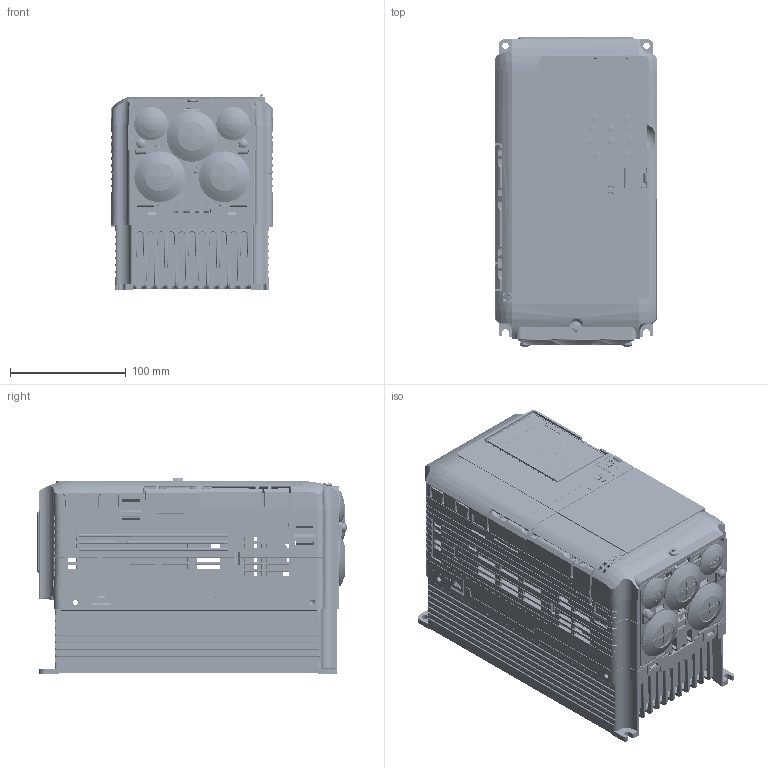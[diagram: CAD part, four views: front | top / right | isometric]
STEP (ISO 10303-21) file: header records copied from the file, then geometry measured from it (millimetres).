
FILE_DESCRIPTION((''),'2;1');
FILE_NAME('71616-AA4A0023FAA_ASM','2010-02-19T',('jc'),('YASKAWA ELECTRIC CORCORATION'),'PRO/ENGINEER BY PARAMETRIC TECHNOLOGY CORPORATION, 2008490','PRO/ENGINEER BY PARAMETRIC TECHNOLOGY CORPORATION, 2008490','');
FILE_SCHEMA(('CONFIG_CONTROL_DESIGN'));
Length unit declared in the file: millimetre
Products named in the file (97): LAY_AA4A0023FAA; HSGT21104_1; HSGT21104_ASM; CVST31320; ISCT21013; YPHT31612-1B_AF0; TBET31172_1_1_AF0; TBET31172_1_2_AF0; TBET31172_1_2_AF1; TBET31172_1_2_AF2; TBET31172_1_2_AF3; TBET31172_1_2_AF4; TBET31172_1_2_AF5; TBET31172_1_2_AF6; TBET31172_1_2_AF7; TBET31172_1_2_AF8; TBET31172_1_3_AF0; TBET31172_1_3_AF1; TBET31172_1_3_AF2; TBET31172_1_3_AF3; TBET31172_1_3_AF4; TBET31172_1_3_AF5; TBET31172_1_3_AF6; TBET31172_1_3_AF7; TBET31172_1_3_AF8; TBET31172_1_AF0_ASM; TBET31172_3_AF0; TBET31172_2_AF0; TBET31172_2_AF1; TBET31172_2_AF2; TBET31172_2_AF3; TBET31172_2_AF4; TBET31172_2_AF5; TBET31172_2_AF6; TBET31172_2_AF7; TBET31172_2_AF8; TBET31172_AF0_ASM; TBET31170_1_1_AF0; TBET31170_1_2_AF0; TBET31170_1_2_AF1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
Assembly tree (111 placements, depth 5):
  71616-AA4A0023FAA_ASM
    LAY_AA4A0023FAA
    HSGT21104_ASM
      HSGT21104_1
    CVST31320
    ISCT21013
    ETP712160_ASM
      YPHT31612-1B_AF0
      TBET31172_AF0_ASM
        TBET31172_1_AF0_ASM
          TBET31172_1_1_AF0
          TBET31172_1_2_AF0
          TBET31172_1_2_AF1
          TBET31172_1_2_AF2
          TBET31172_1_2_AF3
          TBET31172_1_2_AF4
          TBET31172_1_2_AF5
          TBET31172_1_2_AF6
          TBET31172_1_2_AF7
          TBET31172_1_2_AF8
          TBET31172_1_3_AF0
          TBET31172_1_3_AF1
          TBET31172_1_3_AF2
          TBET31172_1_3_AF3
          TBET31172_1_3_AF4
          TBET31172_1_3_AF5
          TBET31172_1_3_AF6
          TBET31172_1_3_AF7
          TBET31172_1_3_AF8
        TBET31172_3_AF0
        TBET31172_2_AF0
        TBET31172_2_AF1
        TBET31172_2_AF2
        TBET31172_2_AF3
        TBET31172_2_AF4
        TBET31172_2_AF5
        TBET31172_2_AF6
        TBET31172_2_AF7
        TBET31172_2_AF8
      TBET31170_AF0_ASM
        TBET31170_1_AF0_ASM
          TBET31170_1_1_AF0
          TBET31170_1_2_AF0
          TBET31170_1_2_AF1
          TBET31170_1_3_AF0
          TBET31170_1_3_AF1
        TBET31170_2_AF0
        TBET31170_2_AF1
    CVST31357
    CVST21161_ASM
      CVST21161_1_AF0
      CVST21161_3  x10
      CVST21161_2
    CVST31363
    SPAT45994
    ETC740140_ASM
      YPHT31639-1B
      XC6202P502P_AF0
      SPTA1_12-5P0_AF0
      SPTA1_11-5P0_AF0
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Bounding box: 140 x 268.4 x 169.89 mm (x, y, z)
Volume: 3433443.9 mm3; surface area: 801244.3 mm2
Topology: 205 solids, 215 shells, 17139 faces, 46557 edges, 30073 vertices
Faces by surface type: plane 12962, cylinder 2106, cone 917, bspline 490, torus 395, sphere 269
Entity records: 555513 total; most frequent: CARTESIAN_POINT 131692, ORIENTED_EDGE 91110, DIRECTION 81840, EDGE_CURVE 45555, VECTOR 36928, LINE 36928, VERTEX_POINT 29552, AXIS2_PLACEMENT_3D 22456
